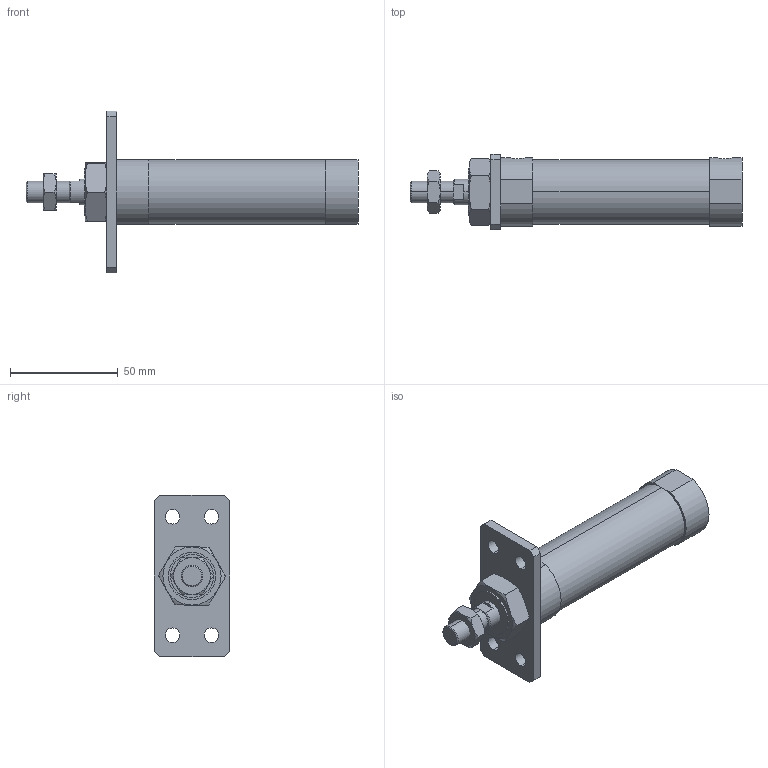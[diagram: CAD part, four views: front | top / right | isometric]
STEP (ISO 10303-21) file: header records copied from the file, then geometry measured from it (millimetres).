
FILE_DESCRIPTION (( 'STEP AP203' ), '1' );
FILE_NAME ('JGND2-25-50-A.STEP', '2016-08-04T02:35:39', ( '' ), ( '' ), 'SwSTEP 2.0', 'SolidWorks 2014', '' );
FILE_SCHEMA (( 'CONFIG_CONTROL_DESIGN' ));
Length unit declared in the file: millimetre
Products named in the file (5): J#2-25-50(P); JGND2-25-50-A; J#2-25-A
Assembly tree (4 placements, depth 2):
  JGND2-25-50-A
    J#2-25-50(P)
    (unnamed)
    (unnamed)
    J#2-25-A
Bounding box: 154 x 35 x 75 mm (x, y, z)
Volume: 100455.9 mm3; surface area: 24410.7 mm2
Topology: 4 solids, 4 shells, 109 faces, 252 edges, 152 vertices
Faces by surface type: plane 45, cylinder 32, torus 24, cone 8
Entity records: 3913 total; most frequent: CARTESIAN_POINT 956, DIRECTION 516, ORIENTED_EDGE 496, EDGE_CURVE 248, AXIS2_PLACEMENT_3D 208, VERTEX_POINT 152, EDGE_LOOP 128, FACE_OUTER_BOUND 109
